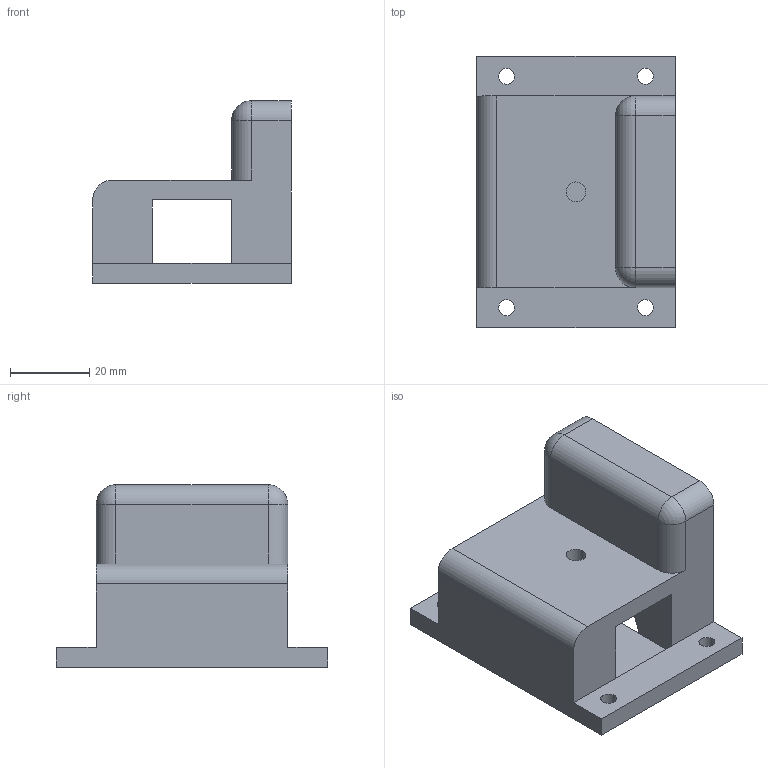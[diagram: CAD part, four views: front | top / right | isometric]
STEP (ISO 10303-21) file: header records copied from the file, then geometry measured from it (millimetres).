
FILE_DESCRIPTION(('CATIA V5 STEP Exchange'),'2;1');
FILE_NAME('C:\Users\user\Documents\Jakob\BAC - Arbeit 1\CAD Modell\CAD-Modell-Step files\rod mount\secondary rod mount_2.stp','2018-12-13T14:09:09+00:00',('none'),('none'),'Version 5-6 Release 2012','CATIA V5 STEP AP203','none');
FILE_SCHEMA(('CONFIG_CONTROL_DESIGN'));
Length unit declared in the file: millimetre
Products named in the file (1): secondary rod mount 2
Bounding box: 50 x 68.3 x 46 mm (x, y, z)
Volume: 56164.1 mm3; surface area: 17900.6 mm2
Topology: 1 solids, 1 shells, 48 faces, 136 edges, 86 vertices
Faces by surface type: plane 26, cylinder 20, sphere 2
Entity records: 1498 total; most frequent: ORIENTED_EDGE 268, CARTESIAN_POINT 255, DIRECTION 202, EDGE_CURVE 134, VECTOR 94, LINE 94, VERTEX_POINT 86, AXIS2_PLACEMENT_3D 75
